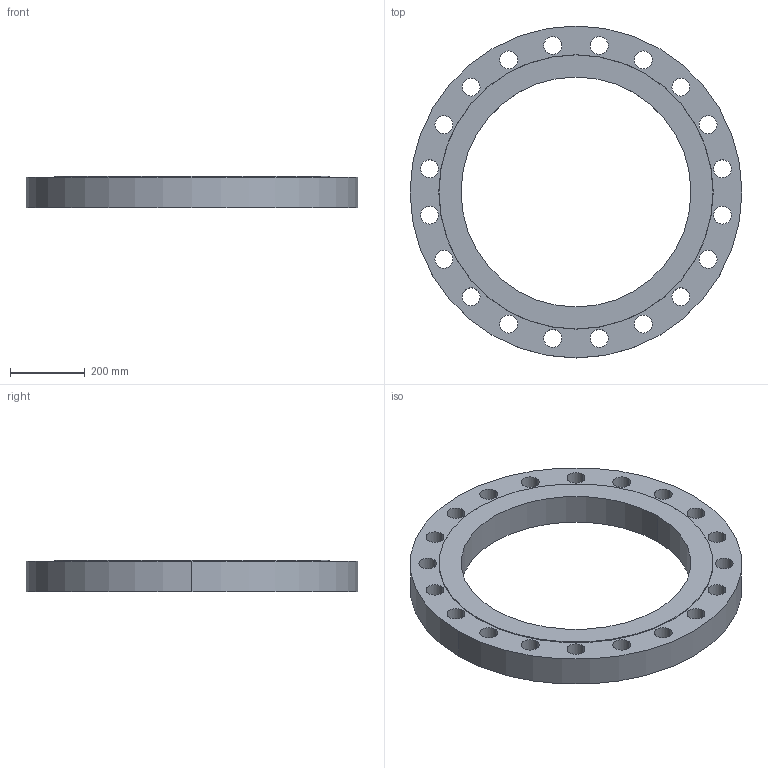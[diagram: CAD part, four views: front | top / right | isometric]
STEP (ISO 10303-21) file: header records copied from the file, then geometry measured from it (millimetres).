
FILE_DESCRIPTION (( 'STEP AP214' ), '1' );
FILE_NAME ('PN40 DN600 Type 01 - Type B Face.STEP', '2018-12-28T23:40:56', ( '' ), ( '' ), 'SwSTEP 2.0', 'SolidWorks 2019', '' );
FILE_SCHEMA (( 'AUTOMOTIVE_DESIGN' ));
Length unit declared in the file: millimetre
Products named in the file (1): PN40 DN600 Type 01 - Type B Face
Bounding box: 890 x 890 x 84 mm (x, y, z)
Volume: 23820386.6 mm3; surface area: 1217976.4 mm2
Topology: 1 solids, 1 shells, 49 faces, 138 edges, 92 vertices
Faces by surface type: cylinder 44, plane 3, cone 2
Entity records: 1762 total; most frequent: DIRECTION 330, CARTESIAN_POINT 280, ORIENTED_EDGE 276, AXIS2_PLACEMENT_3D 142, EDGE_CURVE 138, CIRCLE 92, EDGE_LOOP 92, VERTEX_POINT 92
